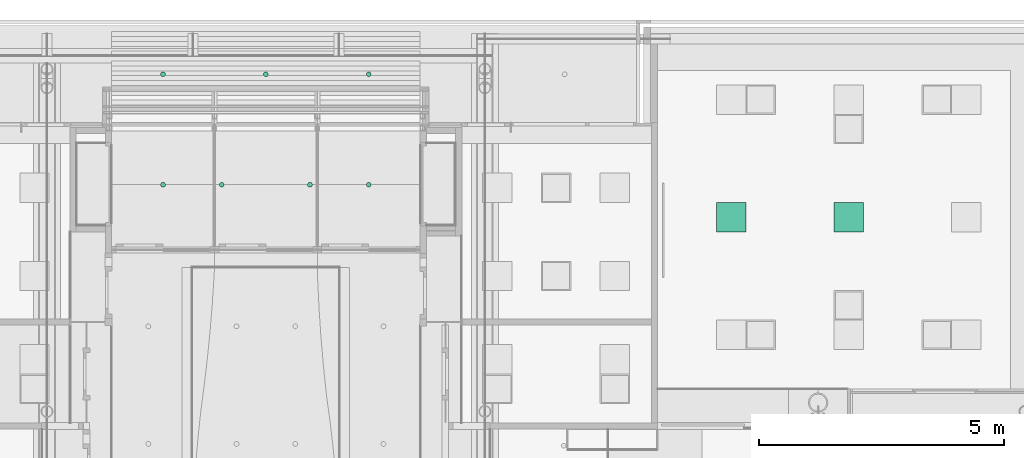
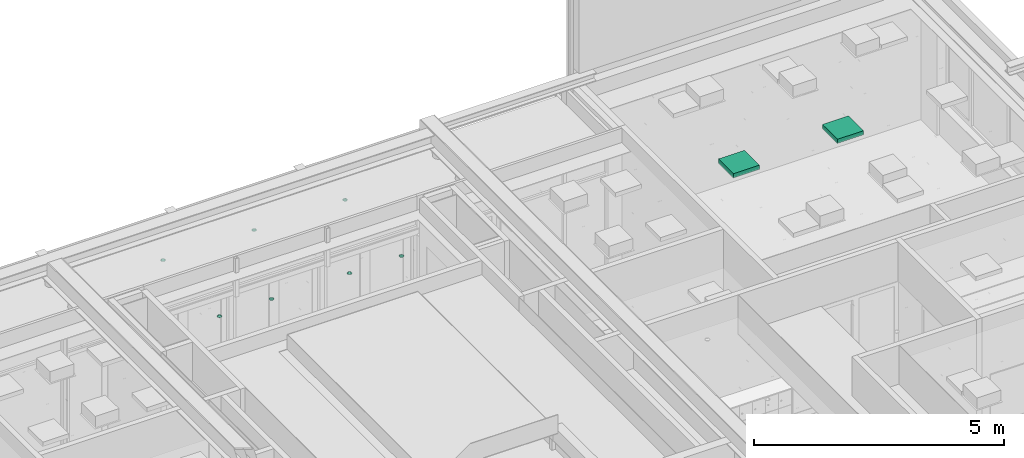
# One storey, part 293 of 347: 9 flow terminals.
"""IFC2X3 building model written with IfcOpenShell, lengths in millimetres."""

from ifc_helpers import new_model, entity, si_unit, converted_unit, derived_unit, money_unit, direction, frame, origin_with_axes, place, context, subcontext, project, spatial, open_shell, faceted_brep, surface_model, source, transform, mapped, type_object, type_shapes, element, save


model = new_model("IFC2X3")

# Units and contexts
model_context = context("Model", 3, precision=0.01, world=origin_with_axes(), true_north=direction((0.0, 1.0)))
plan_context = context("Plan", 3, precision=0.01, world=origin_with_axes(), true_north=direction((0.0, 1.0)))
body_context = subcontext(model_context, "Body", "Model", "MODEL_VIEW")
ifc_project = project(units=[si_unit("LENGTHUNIT", "METRE", prefix="MILLI"), si_unit("AREAUNIT", "SQUARE_METRE"), si_unit("VOLUMEUNIT", "CUBIC_METRE"), converted_unit("PLANEANGLEUNIT", "DEGREE", entity("IfcPlaneAngleMeasure", 0.0174532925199), si_unit("PLANEANGLEUNIT", "RADIAN"), dimensions=[0, 0, 0, 0, 0, 0, 0]), money_unit("EUR"), converted_unit("TIMEUNIT", "Year", entity("IfcTimeMeasure", 31556926.0), si_unit("TIMEUNIT", "SECOND"), dimensions=[0, 0, 1, 0, 0, 0, 0]), si_unit("MASSUNIT", "GRAM", prefix="KILO"), si_unit("THERMODYNAMICTEMPERATUREUNIT", "DEGREE_CELSIUS"), si_unit("LUMINOUSINTENSITYUNIT", "LUMEN"), si_unit("ENERGYUNIT", "JOULE", prefix="MEGA"), derived_unit("THERMALCONDUCTANCEUNIT", [(si_unit("POWERUNIT", "WATT"), 1), (si_unit("LENGTHUNIT", "METRE"), -1), (si_unit("THERMODYNAMICTEMPERATUREUNIT", "KELVIN"), -1)]), derived_unit("SPECIFICHEATCAPACITYUNIT", [(si_unit("ENERGYUNIT", "JOULE"), 1), (si_unit("MASSUNIT", "GRAM", prefix="KILO"), -1), (si_unit("THERMODYNAMICTEMPERATUREUNIT", "KELVIN"), -1)]), derived_unit("MASSDENSITYUNIT", [(si_unit("MASSUNIT", "GRAM", prefix="KILO"), 1), (si_unit("VOLUMEUNIT", "CUBIC_METRE"), -1)])], contexts=[model_context, plan_context])

# Site, building, storey
site_placement = place(None, origin_with_axes())
site = spatial("IfcSite", under=ifc_project, at=site_placement, Name="Site", CompositionType="ELEMENT")
building_placement = place(site_placement, origin_with_axes())
building = spatial("IfcBuilding", under=site, at=building_placement, Name="Naam gebouw", CompositionType="ELEMENT")
storey_placement = place(building_placement, origin_with_axes())
storey = spatial("IfcBuildingStorey", under=building, at=storey_placement, Name="begane grond", CompositionType="ELEMENT", Elevation=0.0)

# Flow terminals
lamp_type_1 = type_object("IfcLampType", Name="Spot plafond 01 25", PredefinedType="NOTDEFINED")
shared_shape_1 = source(origin_with_axes(), body_context, "Body", "SurfaceModel", [
    faceted_brep([(50.0, 0.0, -10.0), (46.1939766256, 19.1341716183, -10.0), (46.1939766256, 19.1341716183, 0.0), (50.0, 0.0, 0.0), (46.1939766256, -19.1341716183, -10.0), (35.3553390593, -35.3553390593, -10.0), (19.1341716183, -46.1939766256, -10.0), (0.0, -50.0, -10.0), (-19.1341716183, -46.1939766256, -10.0), (-35.3553390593, -35.3553390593, -10.0), (-46.1939766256, -19.1341716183, -10.0), (-50.0, 0.0, -10.0), (-46.1939766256, 19.1341716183, -10.0), (-35.3553390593, 35.3553390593, -10.0), (-19.1341716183, 46.1939766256, -10.0), (0.0, 50.0, -10.0), (19.1341716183, 46.1939766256, -10.0), (35.3553390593, 35.3553390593, -10.0), (40.0, 0.0, -10.0), (36.9551813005, 15.3073372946, -10.0), (28.2842712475, 28.2842712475, -10.0), (15.3073372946, 36.9551813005, -10.0), (0.0, 40.0, -10.0), (-15.3073372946, 36.9551813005, -10.0), (-28.2842712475, 28.2842712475, -10.0), (-36.9551813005, 15.3073372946, -10.0), (-40.0, 0.0, -10.0), (-36.9551813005, -15.3073372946, -10.0), (-28.2842712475, -28.2842712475, -10.0), (-15.3073372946, -36.9551813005, -10.0), (0.0, -40.0, -10.0), (15.3073372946, -36.9551813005, -10.0), (28.2842712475, -28.2842712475, -10.0), (36.9551813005, -15.3073372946, -10.0), (35.3553390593, 35.3553390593, 0.0), (19.1341716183, 46.1939766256, 0.0), (0.0, 50.0, 0.0), (-19.1341716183, 46.1939766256, 0.0), (-35.3553390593, 35.3553390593, 0.0), (-46.1939766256, 19.1341716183, 0.0), (-50.0, 0.0, 0.0), (-46.1939766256, -19.1341716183, 0.0), (-35.3553390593, -35.3553390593, 0.0), (-19.1341716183, -46.1939766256, 0.0), (0.0, -50.0, 0.0), (19.1341716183, -46.1939766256, 0.0), (35.3553390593, -35.3553390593, 0.0), (46.1939766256, -19.1341716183, 0.0), (40.0, 0.0, 0.0), (36.9551813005, -15.3073372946, 0.0), (28.2842712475, -28.2842712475, 0.0), (15.3073372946, -36.9551813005, 0.0), (0.0, -40.0, 0.0), (-15.3073372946, -36.9551813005, 0.0), (-28.2842712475, -28.2842712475, 0.0), (-36.9551813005, -15.3073372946, 0.0), (-40.0, 0.0, 0.0), (-36.9551813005, 15.3073372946, 0.0), (-28.2842712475, 28.2842712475, 0.0), (-15.3073372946, 36.9551813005, 0.0), (0.0, 40.0, 0.0), (15.3073372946, 36.9551813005, 0.0), (28.2842712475, 28.2842712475, 0.0), (36.9551813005, 15.3073372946, 0.0)], [[[0, 1, 2, 3]], [[0, 4, 5, 6, 7, 8, 9, 10, 11, 12, 13, 14, 15, 16, 17, 1], [18, 19, 20, 21, 22, 23, 24, 25, 26, 27, 28, 29, 30, 31, 32, 33]], [[1, 17, 34, 2]], [[3, 2, 34, 35, 36, 37, 38, 39, 40, 41, 42, 43, 44, 45, 46, 47], [48, 49, 50, 51, 52, 53, 54, 55, 56, 57, 58, 59, 60, 61, 62, 63]], [[4, 0, 3, 47]], [[5, 4, 47, 46]], [[6, 5, 46, 45]], [[7, 6, 45, 44]], [[8, 7, 44, 43]], [[9, 8, 43, 42]], [[10, 9, 42, 41]], [[11, 10, 41, 40]], [[12, 11, 40, 39]], [[13, 12, 39, 38]], [[14, 13, 38, 37]], [[15, 14, 37, 36]], [[16, 15, 36, 35]], [[17, 16, 35, 34]], [[19, 18, 48, 63]], [[20, 19, 63, 62]], [[21, 20, 62, 61]], [[22, 21, 61, 60]], [[23, 22, 60, 59]], [[24, 23, 59, 58]], [[25, 24, 58, 57]], [[26, 25, 57, 56]], [[27, 26, 56, 55]], [[28, 27, 55, 54]], [[29, 28, 54, 53]], [[30, 29, 53, 52]], [[31, 30, 52, 51]], [[32, 31, 51, 50]], [[33, 32, 50, 49]], [[18, 33, 49, 48]]]),
    surface_model("IfcShellBasedSurfaceModel", [(40.0, 0.0, -8.9), (36.9551813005, -15.3073372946, -8.9), (28.2842712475, -28.2842712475, -8.9), (15.3073372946, -36.9551813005, -8.9), (0.0, -40.0, -8.9), (-15.3073372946, -36.9551813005, -8.9), (-28.2842712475, -28.2842712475, -8.9), (-36.9551813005, -15.3073372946, -8.9), (-40.0, 0.0, -8.9), (-36.9551813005, 15.3073372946, -8.9), (-28.2842712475, 28.2842712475, -8.9), (-15.3073372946, 36.9551813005, -8.9), (0.0, 40.0, -8.9), (15.3073372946, 36.9551813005, -8.9), (28.2842712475, 28.2842712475, -8.9), (36.9551813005, 15.3073372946, -8.9)], [open_shell([[[0, 1, 2, 3, 4, 5, 6, 7, 8, 9, 10, 11, 12, 13, 14, 15]]])]),
])
for number, where, z_axis, x_axis, name in (
    (1, (40975.0, 43953.0, 3200.0), (0.0, 0.0, 1.0), (1.0, 0.0, 0.0), "63_Lamp-x"),
    (2, (42175.0, 43953.0, 3200.0), (0.0, 0.0, 1.0), (1.0, 0.0, 0.0), "63_Lamp-x"),
    (3, (37975.0, 43953.0, 3200.0), (0.0, 0.0, 1.0), (1.0, 0.0, 0.0), "63_Lamp-x"),
    (4, (39175.0, 43953.0, 3200.0), (0.0, 0.0, 1.0), (1.0, 0.0, 0.0), "63_Lamp-x"),
    (5, (40075.0, 46208.0, 3200.0), (0.0, 0.0, 1.0), (1.0, 0.0, 0.0), "63_Lamp-x"),
    (6, (37975.0, 46208.0, 3200.0), (0.0, 0.0, 1.0), (1.0, 0.0, 0.0), "63_Lamp-x"),
):
    element("IfcFlowTerminal", number, at=place(storey_placement, frame(where, z_axis=z_axis, x_axis=x_axis)), inside=storey, type_object=lamp_type_1, Name=name, ObjectType="Lamp", context=body_context, shape_type="MappedRepresentation", body=[
        mapped(shared_shape_1, transform((0.0, 0.0, 0.0))),
    ])
shared_shape_2 = source(origin_with_axes(), body_context, "Body", "SurfaceModel", [
    faceted_brep([(-50.0, 0.0, -10.0), (-50.0, 0.0, 0.0), (-46.1939766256, 19.1341716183, 0.0), (-46.1939766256, 19.1341716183, -10.0), (-46.1939766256, -19.1341716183, -10.0), (-46.1939766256, -19.1341716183, 0.0), (-35.3553390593, -35.3553390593, 0.0), (-19.1341716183, -46.1939766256, 0.0), (0.0, -50.0, 0.0), (19.1341716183, -46.1939766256, 0.0), (35.3553390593, -35.3553390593, 0.0), (46.1939766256, -19.1341716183, 0.0), (50.0, 0.0, 0.0), (46.1939766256, 19.1341716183, 0.0), (35.3553390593, 35.3553390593, 0.0), (19.1341716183, 46.1939766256, 0.0), (0.0, 50.0, 0.0), (-19.1341716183, 46.1939766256, 0.0), (-35.3553390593, 35.3553390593, 0.0), (-40.0, 0.0, 0.0), (-36.9551813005, 15.3073372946, 0.0), (-28.2842712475, 28.2842712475, 0.0), (-15.3073372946, 36.9551813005, 0.0), (0.0, 40.0, 0.0), (15.3073372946, 36.9551813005, 0.0), (28.2842712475, 28.2842712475, 0.0), (36.9551813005, 15.3073372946, 0.0), (40.0, 0.0, 0.0), (36.9551813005, -15.3073372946, 0.0), (28.2842712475, -28.2842712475, 0.0), (15.3073372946, -36.9551813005, 0.0), (0.0, -40.0, 0.0), (-15.3073372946, -36.9551813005, 0.0), (-28.2842712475, -28.2842712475, 0.0), (-36.9551813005, -15.3073372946, 0.0), (-35.3553390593, 35.3553390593, -10.0), (-19.1341716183, 46.1939766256, -10.0), (0.0, 50.0, -10.0), (19.1341716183, 46.1939766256, -10.0), (35.3553390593, 35.3553390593, -10.0), (46.1939766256, 19.1341716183, -10.0), (50.0, 0.0, -10.0), (46.1939766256, -19.1341716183, -10.0), (35.3553390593, -35.3553390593, -10.0), (19.1341716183, -46.1939766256, -10.0), (0.0, -50.0, -10.0), (-19.1341716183, -46.1939766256, -10.0), (-35.3553390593, -35.3553390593, -10.0), (-40.0, 0.0, -10.0), (-36.9551813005, -15.3073372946, -10.0), (-28.2842712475, -28.2842712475, -10.0), (-15.3073372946, -36.9551813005, -10.0), (0.0, -40.0, -10.0), (15.3073372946, -36.9551813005, -10.0), (28.2842712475, -28.2842712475, -10.0), (36.9551813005, -15.3073372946, -10.0), (40.0, 0.0, -10.0), (36.9551813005, 15.3073372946, -10.0), (28.2842712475, 28.2842712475, -10.0), (15.3073372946, 36.9551813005, -10.0), (0.0, 40.0, -10.0), (-15.3073372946, 36.9551813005, -10.0), (-28.2842712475, 28.2842712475, -10.0), (-36.9551813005, 15.3073372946, -10.0)], [[[0, 1, 2, 3]], [[4, 5, 1, 0]], [[1, 5, 6, 7, 8, 9, 10, 11, 12, 13, 14, 15, 16, 17, 18, 2], [19, 20, 21, 22, 23, 24, 25, 26, 27, 28, 29, 30, 31, 32, 33, 34]], [[3, 2, 18, 35]], [[0, 3, 35, 36, 37, 38, 39, 40, 41, 42, 43, 44, 45, 46, 47, 4], [48, 49, 50, 51, 52, 53, 54, 55, 56, 57, 58, 59, 60, 61, 62, 63]], [[47, 6, 5, 4]], [[46, 7, 6, 47]], [[45, 8, 7, 46]], [[44, 9, 8, 45]], [[43, 10, 9, 44]], [[42, 11, 10, 43]], [[41, 12, 11, 42]], [[40, 13, 12, 41]], [[39, 14, 13, 40]], [[38, 15, 14, 39]], [[37, 16, 15, 38]], [[36, 17, 16, 37]], [[35, 18, 17, 36]], [[63, 20, 19, 48]], [[62, 21, 20, 63]], [[61, 22, 21, 62]], [[60, 23, 22, 61]], [[59, 24, 23, 60]], [[58, 25, 24, 59]], [[57, 26, 25, 58]], [[56, 27, 26, 57]], [[55, 28, 27, 56]], [[54, 29, 28, 55]], [[53, 30, 29, 54]], [[52, 31, 30, 53]], [[51, 32, 31, 52]], [[50, 33, 32, 51]], [[49, 34, 33, 50]], [[48, 19, 34, 49]]]),
    surface_model("IfcShellBasedSurfaceModel", [(-40.0, 0.0, -8.9), (-36.9551813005, 15.3073372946, -8.9), (-28.2842712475, 28.2842712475, -8.9), (-15.3073372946, 36.9551813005, -8.9), (0.0, 40.0, -8.9), (15.3073372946, 36.9551813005, -8.9), (28.2842712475, 28.2842712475, -8.9), (36.9551813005, 15.3073372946, -8.9), (40.0, 0.0, -8.9), (36.9551813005, -15.3073372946, -8.9), (28.2842712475, -28.2842712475, -8.9), (15.3073372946, -36.9551813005, -8.9), (0.0, -40.0, -8.9), (-15.3073372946, -36.9551813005, -8.9), (-28.2842712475, -28.2842712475, -8.9), (-36.9551813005, -15.3073372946, -8.9)], [open_shell([[[0, 1, 2, 3, 4, 5, 6, 7, 8, 9, 10, 11, 12, 13, 14, 15]]])]),
])
type_shapes(lamp_type_1, [shared_shape_1, shared_shape_2])
flow_terminal_placement = place(storey_placement, frame((42175.0, 46208.0, 3200.0), z_axis=(0.0, 0.0, 1.0), x_axis=(1.0, 0.0, 0.0)))
element("IfcFlowTerminal", 7, at=flow_terminal_placement, inside=storey, type_object=lamp_type_1, Name="63_Lamp-x", ObjectType="Lamp", context=body_context, shape_type="MappedRepresentation", body=[
    mapped(shared_shape_2, transform((0.0, 0.0, 0.0))),
])
lamp_type_2 = type_object("IfcLampType", Name="TL plafond 25", PredefinedType="NOTDEFINED")
shared_shape_3 = source(origin_with_axes(), body_context, "Body", "SurfaceModel", [
    faceted_brep([(0.0, 0.0, -100.0), (0.0, 0.0, 0.0), (-600.0, 0.0, 0.0), (-600.0, 0.0, -100.0), (0.0, 600.0, -100.0), (0.0, 600.0, 0.0), (-600.0, 600.0, 0.0), (-40.0, 40.0, 0.0), (-560.0, 40.0, 0.0), (-560.0, 560.0, 0.0), (-40.0, 560.0, 0.0), (-600.0, 600.0, -100.0), (-40.0, 40.0, -100.0), (-40.0, 560.0, -100.0), (-560.0, 560.0, -100.0), (-560.0, 40.0, -100.0)], [[[0, 1, 2, 3]], [[4, 5, 1, 0]], [[1, 5, 6, 2], [7, 8, 9, 10]], [[3, 2, 6, 11]], [[0, 3, 11, 4], [12, 13, 14, 15]], [[11, 6, 5, 4]], [[15, 8, 7, 12]], [[14, 9, 8, 15]], [[13, 10, 9, 14]], [[12, 7, 10, 13]]]),
    faceted_brep([(-40.0, 40.0, -16.3333333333), (-40.0, 40.0, 0.0), (-560.0, 40.0, 0.0), (-560.0, 40.0, -16.3333333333), (-40.0, 560.0, -16.3333333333), (-40.0, 560.0, 0.0), (-560.0, 560.0, 0.0), (-560.0, 560.0, -16.3333333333)], [[[0, 1, 2, 3]], [[4, 5, 1, 0]], [[1, 5, 6, 2]], [[3, 2, 6, 7]], [[0, 3, 7, 4]], [[7, 6, 5, 4]]]),
    surface_model("IfcShellBasedSurfaceModel", [(-559.0, 41.0, -100.0), (-559.0, 559.0, -100.0), (-40.0, 559.0, -100.0), (-40.0, 41.0, -100.0)], [open_shell([[[0, 1, 2, 3]]])]),
    faceted_brep([(-40.0, 40.0, -100.0), (-40.0, 40.0, -60.0), (-560.0, 40.0, -60.0), (-560.0, 40.0, -100.0), (-40.0, 560.0, -100.0), (-40.0, 560.0, -60.0), (-560.0, 560.0, -60.0), (-41.0, 41.0, -60.0), (-559.0, 41.0, -60.0), (-559.0, 559.0, -60.0), (-41.0, 559.0, -60.0), (-560.0, 560.0, -100.0), (-41.0, 41.0, -100.0), (-41.0, 559.0, -100.0), (-559.0, 559.0, -100.0), (-559.0, 41.0, -100.0)], [[[0, 1, 2, 3]], [[4, 5, 1, 0]], [[1, 5, 6, 2], [7, 8, 9, 10]], [[3, 2, 6, 11]], [[0, 3, 11, 4], [12, 13, 14, 15]], [[11, 6, 5, 4]], [[15, 8, 7, 12]], [[14, 9, 8, 15]], [[13, 10, 9, 14]], [[12, 7, 10, 13]]]),
    faceted_brep([(-40.0, 144.0, -48.3333333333), (-560.0, 144.0, -48.3333333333), (-560.0, 149.740251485, -47.191526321), (-40.0, 149.740251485, -47.191526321), (-40.0, 138.259748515, -47.191526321), (-560.0, 138.259748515, -47.191526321), (-560.0, 133.393398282, -43.9399350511), (-560.0, 130.141807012, -39.0735848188), (-560.0, 129.0, -33.3333333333), (-560.0, 130.141807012, -27.5930818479), (-560.0, 133.393398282, -22.7267316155), (-560.0, 138.259748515, -19.4751403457), (-560.0, 144.0, -18.3333333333), (-560.0, 149.740251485, -19.4751403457), (-560.0, 154.606601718, -22.7267316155), (-560.0, 157.858192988, -27.5930818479), (-560.0, 159.0, -33.3333333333), (-560.0, 157.858192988, -39.0735848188), (-560.0, 154.606601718, -43.9399350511), (-560.0, 144.0, -46.3333333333), (-560.0, 148.974884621, -45.343767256), (-560.0, 153.192388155, -42.5257214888), (-560.0, 156.010433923, -38.3082179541), (-560.0, 157.0, -33.3333333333), (-560.0, 156.010433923, -28.3584487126), (-560.0, 153.192388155, -24.1409451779), (-560.0, 148.974884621, -21.3228994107), (-560.0, 144.0, -20.3333333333), (-560.0, 139.025115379, -21.3228994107), (-560.0, 134.807611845, -24.1409451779), (-560.0, 131.989566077, -28.3584487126), (-560.0, 131.0, -33.3333333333), (-560.0, 131.989566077, -38.3082179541), (-560.0, 134.807611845, -42.5257214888), (-560.0, 139.025115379, -45.343767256), (-40.0, 154.606601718, -43.9399350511), (-40.0, 157.858192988, -39.0735848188), (-40.0, 159.0, -33.3333333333), (-40.0, 157.858192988, -27.5930818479), (-40.0, 154.606601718, -22.7267316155), (-40.0, 149.740251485, -19.4751403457), (-40.0, 144.0, -18.3333333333), (-40.0, 138.259748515, -19.4751403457), (-40.0, 133.393398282, -22.7267316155), (-40.0, 130.141807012, -27.5930818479), (-40.0, 129.0, -33.3333333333), (-40.0, 130.141807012, -39.0735848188), (-40.0, 133.393398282, -43.9399350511), (-40.0, 144.0, -46.3333333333), (-40.0, 139.025115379, -45.343767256), (-40.0, 134.807611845, -42.5257214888), (-40.0, 131.989566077, -38.3082179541), (-40.0, 131.0, -33.3333333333), (-40.0, 131.989566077, -28.3584487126), (-40.0, 134.807611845, -24.1409451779), (-40.0, 139.025115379, -21.3228994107), (-40.0, 144.0, -20.3333333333), (-40.0, 148.974884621, -21.3228994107), (-40.0, 153.192388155, -24.1409451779), (-40.0, 156.010433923, -28.3584487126), (-40.0, 157.0, -33.3333333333), (-40.0, 156.010433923, -38.3082179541), (-40.0, 153.192388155, -42.5257214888), (-40.0, 148.974884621, -45.343767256)], [[[0, 1, 2, 3]], [[4, 5, 1, 0]], [[1, 5, 6, 7, 8, 9, 10, 11, 12, 13, 14, 15, 16, 17, 18, 2], [19, 20, 21, 22, 23, 24, 25, 26, 27, 28, 29, 30, 31, 32, 33, 34]], [[3, 2, 18, 35]], [[0, 3, 35, 36, 37, 38, 39, 40, 41, 42, 43, 44, 45, 46, 47, 4], [48, 49, 50, 51, 52, 53, 54, 55, 56, 57, 58, 59, 60, 61, 62, 63]], [[47, 6, 5, 4]], [[46, 7, 6, 47]], [[45, 8, 7, 46]], [[44, 9, 8, 45]], [[43, 10, 9, 44]], [[42, 11, 10, 43]], [[41, 12, 11, 42]], [[40, 13, 12, 41]], [[39, 14, 13, 40]], [[38, 15, 14, 39]], [[37, 16, 15, 38]], [[36, 17, 16, 37]], [[35, 18, 17, 36]], [[63, 20, 19, 48]], [[62, 21, 20, 63]], [[61, 22, 21, 62]], [[60, 23, 22, 61]], [[59, 24, 23, 60]], [[58, 25, 24, 59]], [[57, 26, 25, 58]], [[56, 27, 26, 57]], [[55, 28, 27, 56]], [[54, 29, 28, 55]], [[53, 30, 29, 54]], [[52, 31, 30, 53]], [[51, 32, 31, 52]], [[50, 33, 32, 51]], [[49, 34, 33, 50]], [[48, 19, 34, 49]]]),
    faceted_brep([(-40.0, 248.0, -48.3333333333), (-560.0, 248.0, -48.3333333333), (-560.0, 253.740251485, -47.191526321), (-40.0, 253.740251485, -47.191526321), (-40.0, 242.259748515, -47.191526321), (-560.0, 242.259748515, -47.191526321), (-560.0, 237.393398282, -43.9399350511), (-560.0, 234.141807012, -39.0735848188), (-560.0, 233.0, -33.3333333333), (-560.0, 234.141807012, -27.5930818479), (-560.0, 237.393398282, -22.7267316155), (-560.0, 242.259748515, -19.4751403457), (-560.0, 248.0, -18.3333333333), (-560.0, 253.740251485, -19.4751403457), (-560.0, 258.606601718, -22.7267316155), (-560.0, 261.858192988, -27.5930818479), (-560.0, 263.0, -33.3333333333), (-560.0, 261.858192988, -39.0735848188), (-560.0, 258.606601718, -43.9399350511), (-560.0, 248.0, -46.3333333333), (-560.0, 252.974884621, -45.343767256), (-560.0, 257.192388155, -42.5257214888), (-560.0, 260.010433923, -38.3082179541), (-560.0, 261.0, -33.3333333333), (-560.0, 260.010433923, -28.3584487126), (-560.0, 257.192388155, -24.1409451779), (-560.0, 252.974884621, -21.3228994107), (-560.0, 248.0, -20.3333333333), (-560.0, 243.025115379, -21.3228994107), (-560.0, 238.807611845, -24.1409451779), (-560.0, 235.989566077, -28.3584487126), (-560.0, 235.0, -33.3333333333), (-560.0, 235.989566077, -38.3082179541), (-560.0, 238.807611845, -42.5257214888), (-560.0, 243.025115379, -45.343767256), (-40.0, 258.606601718, -43.9399350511), (-40.0, 261.858192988, -39.0735848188), (-40.0, 263.0, -33.3333333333), (-40.0, 261.858192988, -27.5930818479), (-40.0, 258.606601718, -22.7267316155), (-40.0, 253.740251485, -19.4751403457), (-40.0, 248.0, -18.3333333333), (-40.0, 242.259748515, -19.4751403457), (-40.0, 237.393398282, -22.7267316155), (-40.0, 234.141807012, -27.5930818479), (-40.0, 233.0, -33.3333333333), (-40.0, 234.141807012, -39.0735848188), (-40.0, 237.393398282, -43.9399350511), (-40.0, 248.0, -46.3333333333), (-40.0, 243.025115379, -45.343767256), (-40.0, 238.807611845, -42.5257214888), (-40.0, 235.989566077, -38.3082179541), (-40.0, 235.0, -33.3333333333), (-40.0, 235.989566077, -28.3584487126), (-40.0, 238.807611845, -24.1409451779), (-40.0, 243.025115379, -21.3228994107), (-40.0, 248.0, -20.3333333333), (-40.0, 252.974884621, -21.3228994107), (-40.0, 257.192388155, -24.1409451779), (-40.0, 260.010433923, -28.3584487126), (-40.0, 261.0, -33.3333333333), (-40.0, 260.010433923, -38.3082179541), (-40.0, 257.192388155, -42.5257214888), (-40.0, 252.974884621, -45.343767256)], [[[0, 1, 2, 3]], [[4, 5, 1, 0]], [[1, 5, 6, 7, 8, 9, 10, 11, 12, 13, 14, 15, 16, 17, 18, 2], [19, 20, 21, 22, 23, 24, 25, 26, 27, 28, 29, 30, 31, 32, 33, 34]], [[3, 2, 18, 35]], [[0, 3, 35, 36, 37, 38, 39, 40, 41, 42, 43, 44, 45, 46, 47, 4], [48, 49, 50, 51, 52, 53, 54, 55, 56, 57, 58, 59, 60, 61, 62, 63]], [[47, 6, 5, 4]], [[46, 7, 6, 47]], [[45, 8, 7, 46]], [[44, 9, 8, 45]], [[43, 10, 9, 44]], [[42, 11, 10, 43]], [[41, 12, 11, 42]], [[40, 13, 12, 41]], [[39, 14, 13, 40]], [[38, 15, 14, 39]], [[37, 16, 15, 38]], [[36, 17, 16, 37]], [[35, 18, 17, 36]], [[63, 20, 19, 48]], [[62, 21, 20, 63]], [[61, 22, 21, 62]], [[60, 23, 22, 61]], [[59, 24, 23, 60]], [[58, 25, 24, 59]], [[57, 26, 25, 58]], [[56, 27, 26, 57]], [[55, 28, 27, 56]], [[54, 29, 28, 55]], [[53, 30, 29, 54]], [[52, 31, 30, 53]], [[51, 32, 31, 52]], [[50, 33, 32, 51]], [[49, 34, 33, 50]], [[48, 19, 34, 49]]]),
    faceted_brep([(-40.0, 352.0, -48.3333333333), (-560.0, 352.0, -48.3333333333), (-560.0, 357.740251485, -47.191526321), (-40.0, 357.740251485, -47.191526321), (-40.0, 346.259748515, -47.191526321), (-560.0, 346.259748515, -47.191526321), (-560.0, 341.393398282, -43.9399350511), (-560.0, 338.141807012, -39.0735848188), (-560.0, 337.0, -33.3333333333), (-560.0, 338.141807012, -27.5930818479), (-560.0, 341.393398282, -22.7267316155), (-560.0, 346.259748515, -19.4751403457), (-560.0, 352.0, -18.3333333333), (-560.0, 357.740251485, -19.4751403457), (-560.0, 362.606601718, -22.7267316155), (-560.0, 365.858192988, -27.5930818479), (-560.0, 367.0, -33.3333333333), (-560.0, 365.858192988, -39.0735848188), (-560.0, 362.606601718, -43.9399350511), (-560.0, 352.0, -46.3333333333), (-560.0, 356.974884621, -45.343767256), (-560.0, 361.192388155, -42.5257214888), (-560.0, 364.010433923, -38.3082179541), (-560.0, 365.0, -33.3333333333), (-560.0, 364.010433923, -28.3584487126), (-560.0, 361.192388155, -24.1409451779), (-560.0, 356.974884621, -21.3228994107), (-560.0, 352.0, -20.3333333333), (-560.0, 347.025115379, -21.3228994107), (-560.0, 342.807611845, -24.1409451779), (-560.0, 339.989566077, -28.3584487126), (-560.0, 339.0, -33.3333333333), (-560.0, 339.989566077, -38.3082179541), (-560.0, 342.807611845, -42.5257214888), (-560.0, 347.025115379, -45.343767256), (-40.0, 362.606601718, -43.9399350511), (-40.0, 365.858192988, -39.0735848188), (-40.0, 367.0, -33.3333333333), (-40.0, 365.858192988, -27.5930818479), (-40.0, 362.606601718, -22.7267316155), (-40.0, 357.740251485, -19.4751403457), (-40.0, 352.0, -18.3333333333), (-40.0, 346.259748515, -19.4751403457), (-40.0, 341.393398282, -22.7267316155), (-40.0, 338.141807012, -27.5930818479), (-40.0, 337.0, -33.3333333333), (-40.0, 338.141807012, -39.0735848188), (-40.0, 341.393398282, -43.9399350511), (-40.0, 352.0, -46.3333333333), (-40.0, 347.025115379, -45.343767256), (-40.0, 342.807611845, -42.5257214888), (-40.0, 339.989566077, -38.3082179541), (-40.0, 339.0, -33.3333333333), (-40.0, 339.989566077, -28.3584487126), (-40.0, 342.807611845, -24.1409451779), (-40.0, 347.025115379, -21.3228994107), (-40.0, 352.0, -20.3333333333), (-40.0, 356.974884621, -21.3228994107), (-40.0, 361.192388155, -24.1409451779), (-40.0, 364.010433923, -28.3584487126), (-40.0, 365.0, -33.3333333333), (-40.0, 364.010433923, -38.3082179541), (-40.0, 361.192388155, -42.5257214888), (-40.0, 356.974884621, -45.343767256)], [[[0, 1, 2, 3]], [[4, 5, 1, 0]], [[1, 5, 6, 7, 8, 9, 10, 11, 12, 13, 14, 15, 16, 17, 18, 2], [19, 20, 21, 22, 23, 24, 25, 26, 27, 28, 29, 30, 31, 32, 33, 34]], [[3, 2, 18, 35]], [[0, 3, 35, 36, 37, 38, 39, 40, 41, 42, 43, 44, 45, 46, 47, 4], [48, 49, 50, 51, 52, 53, 54, 55, 56, 57, 58, 59, 60, 61, 62, 63]], [[47, 6, 5, 4]], [[46, 7, 6, 47]], [[45, 8, 7, 46]], [[44, 9, 8, 45]], [[43, 10, 9, 44]], [[42, 11, 10, 43]], [[41, 12, 11, 42]], [[40, 13, 12, 41]], [[39, 14, 13, 40]], [[38, 15, 14, 39]], [[37, 16, 15, 38]], [[36, 17, 16, 37]], [[35, 18, 17, 36]], [[63, 20, 19, 48]], [[62, 21, 20, 63]], [[61, 22, 21, 62]], [[60, 23, 22, 61]], [[59, 24, 23, 60]], [[58, 25, 24, 59]], [[57, 26, 25, 58]], [[56, 27, 26, 57]], [[55, 28, 27, 56]], [[54, 29, 28, 55]], [[53, 30, 29, 54]], [[52, 31, 30, 53]], [[51, 32, 31, 52]], [[50, 33, 32, 51]], [[49, 34, 33, 50]], [[48, 19, 34, 49]]]),
    faceted_brep([(-40.0, 456.0, -48.3333333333), (-560.0, 456.0, -48.3333333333), (-560.0, 461.740251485, -47.191526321), (-40.0, 461.740251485, -47.191526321), (-40.0, 450.259748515, -47.191526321), (-560.0, 450.259748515, -47.191526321), (-560.0, 445.393398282, -43.9399350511), (-560.0, 442.141807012, -39.0735848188), (-560.0, 441.0, -33.3333333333), (-560.0, 442.141807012, -27.5930818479), (-560.0, 445.393398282, -22.7267316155), (-560.0, 450.259748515, -19.4751403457), (-560.0, 456.0, -18.3333333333), (-560.0, 461.740251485, -19.4751403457), (-560.0, 466.606601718, -22.7267316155), (-560.0, 469.858192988, -27.5930818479), (-560.0, 471.0, -33.3333333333), (-560.0, 469.858192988, -39.0735848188), (-560.0, 466.606601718, -43.9399350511), (-560.0, 456.0, -46.3333333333), (-560.0, 460.974884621, -45.343767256), (-560.0, 465.192388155, -42.5257214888), (-560.0, 468.010433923, -38.3082179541), (-560.0, 469.0, -33.3333333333), (-560.0, 468.010433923, -28.3584487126), (-560.0, 465.192388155, -24.1409451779), (-560.0, 460.974884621, -21.3228994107), (-560.0, 456.0, -20.3333333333), (-560.0, 451.025115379, -21.3228994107), (-560.0, 446.807611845, -24.1409451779), (-560.0, 443.989566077, -28.3584487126), (-560.0, 443.0, -33.3333333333), (-560.0, 443.989566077, -38.3082179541), (-560.0, 446.807611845, -42.5257214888), (-560.0, 451.025115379, -45.343767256), (-40.0, 466.606601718, -43.9399350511), (-40.0, 469.858192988, -39.0735848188), (-40.0, 471.0, -33.3333333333), (-40.0, 469.858192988, -27.5930818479), (-40.0, 466.606601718, -22.7267316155), (-40.0, 461.740251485, -19.4751403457), (-40.0, 456.0, -18.3333333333), (-40.0, 450.259748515, -19.4751403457), (-40.0, 445.393398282, -22.7267316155), (-40.0, 442.141807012, -27.5930818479), (-40.0, 441.0, -33.3333333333), (-40.0, 442.141807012, -39.0735848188), (-40.0, 445.393398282, -43.9399350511), (-40.0, 456.0, -46.3333333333), (-40.0, 451.025115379, -45.343767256), (-40.0, 446.807611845, -42.5257214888), (-40.0, 443.989566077, -38.3082179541), (-40.0, 443.0, -33.3333333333), (-40.0, 443.989566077, -28.3584487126), (-40.0, 446.807611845, -24.1409451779), (-40.0, 451.025115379, -21.3228994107), (-40.0, 456.0, -20.3333333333), (-40.0, 460.974884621, -21.3228994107), (-40.0, 465.192388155, -24.1409451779), (-40.0, 468.010433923, -28.3584487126), (-40.0, 469.0, -33.3333333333), (-40.0, 468.010433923, -38.3082179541), (-40.0, 465.192388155, -42.5257214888), (-40.0, 460.974884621, -45.343767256)], [[[0, 1, 2, 3]], [[4, 5, 1, 0]], [[1, 5, 6, 7, 8, 9, 10, 11, 12, 13, 14, 15, 16, 17, 18, 2], [19, 20, 21, 22, 23, 24, 25, 26, 27, 28, 29, 30, 31, 32, 33, 34]], [[3, 2, 18, 35]], [[0, 3, 35, 36, 37, 38, 39, 40, 41, 42, 43, 44, 45, 46, 47, 4], [48, 49, 50, 51, 52, 53, 54, 55, 56, 57, 58, 59, 60, 61, 62, 63]], [[47, 6, 5, 4]], [[46, 7, 6, 47]], [[45, 8, 7, 46]], [[44, 9, 8, 45]], [[43, 10, 9, 44]], [[42, 11, 10, 43]], [[41, 12, 11, 42]], [[40, 13, 12, 41]], [[39, 14, 13, 40]], [[38, 15, 14, 39]], [[37, 16, 15, 38]], [[36, 17, 16, 37]], [[35, 18, 17, 36]], [[63, 20, 19, 48]], [[62, 21, 20, 63]], [[61, 22, 21, 62]], [[60, 23, 22, 61]], [[59, 24, 23, 60]], [[58, 25, 24, 59]], [[57, 26, 25, 58]], [[56, 27, 26, 57]], [[55, 28, 27, 56]], [[54, 29, 28, 55]], [[53, 30, 29, 54]], [[52, 31, 30, 53]], [[51, 32, 31, 52]], [[50, 33, 32, 51]], [[49, 34, 33, 50]], [[48, 19, 34, 49]]]),
])
type_shapes(lamp_type_2, [shared_shape_3])
for number, where, z_axis, x_axis, name in (
    (8, (52274.9999843, 42990.5, 3295.0), (0.0, 0.0, 1.0), (1.0, 0.0, 0.0), "63_Lamp-x"),
    (9, (49874.9999843, 42990.5, 3295.0), (0.0, 0.0, 1.0), (1.0, 0.0, 0.0), "63_Lamp-x"),
):
    element("IfcFlowTerminal", number, at=place(storey_placement, frame(where, z_axis=z_axis, x_axis=x_axis)), inside=storey, type_object=lamp_type_2, Name=name, ObjectType="Lamp", context=body_context, shape_type="MappedRepresentation", body=[
        mapped(shared_shape_3, transform((0.0, 0.0, 0.0))),
    ])

save(model, "model.ifc")
